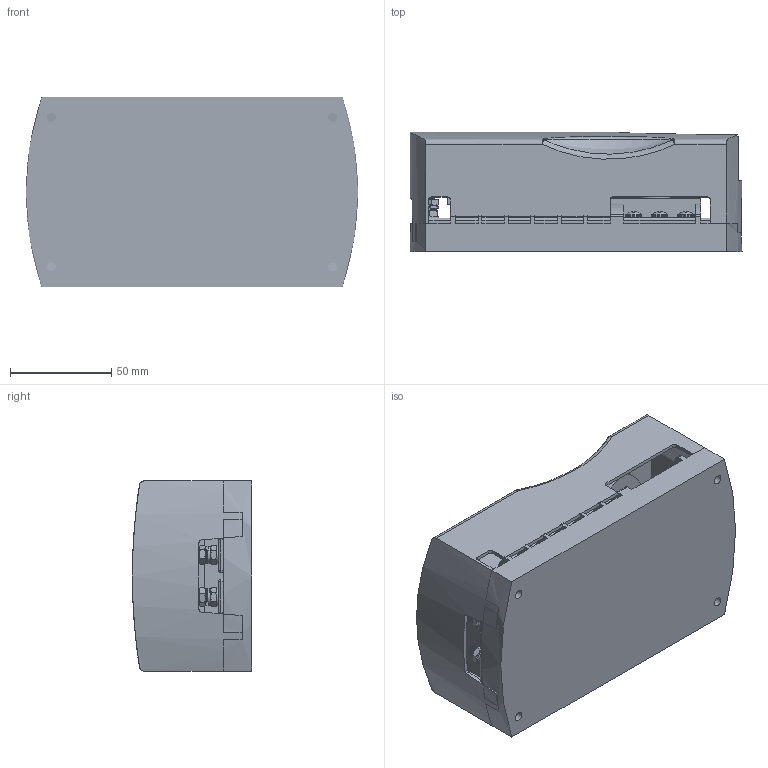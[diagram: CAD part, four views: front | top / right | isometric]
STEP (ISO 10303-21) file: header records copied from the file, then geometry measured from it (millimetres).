
FILE_DESCRIPTION(/* description */ (''),/* implementation_level */ '2;1');
FILE_NAME(/* name */ 'C:\Users\Hani\Desktop\work\BLR-412-G\BLR-412-G.stp',/* time_stamp */ '2021-07-09T14:41:01-07:00',/* author */ ('Hani'),/* organization */ (''),/* preprocessor_version */ 'ST-DEVELOPER v17',/* originating_system */ 'Autodesk Inventor 2019',/* authorisation */ '');
FILE_SCHEMA (('AUTOMOTIVE_DESIGN { 1 0 10303 214 3 1 1 }'));
Products named in the file (17): BLR-406-G; BLR-406-G-Base; M4 PHILLIPS MACHINE SCREW; STUD; LOCK WASHER; WASHER; HEX NUT; STUD_CPY; LOCK WASHER_CPY; WASHER_CPY; HEX NUT_CPY; BLR-406-G-Cover; Push-down-Button; STUD_CPY_MIR1; LOCK WASHER_CPY_MIR1; WASHER_CPY_MIR1; HEX NUT_CPY_MIR1
Assembly tree (36 placements, depth 2):
  BLR-406-G
    BLR-406-G-Base
    M4 PHILLIPS MACHINE SCREW  x18
    STUD
    LOCK WASHER
    WASHER
    HEX NUT  x2
    STUD_CPY
    LOCK WASHER_CPY
    WASHER_CPY
    HEX NUT_CPY  x2
    BLR-406-G-Cover
    Push-down-Button
    STUD_CPY_MIR1
    LOCK WASHER_CPY_MIR1
    WASHER_CPY_MIR1
    HEX NUT_CPY_MIR1  x2
Bounding box: 164.08 x 58.93 x 93.98 mm (x, y, z)
Volume: 388961.2 mm3; surface area: 149092 mm2
Topology: 36 solids, 36 shells, 2668 faces, 7257 edges, 4751 vertices
Faces by surface type: plane 1133, cylinder 796, cone 323, bspline 288, torus 96, sphere 32
Full cylindrical faces by diameter (mm): 3.091 x126, 3.251 x18, 3.769 x48, 3.795 x6, 4 x126, 4.14 x3, 4.496 x4, 4.801 x51, 4.826 x18, 4.953 x3, 5.08 x1, 8 x18, 8.992 x3, 9.068 x4, 9.982 x1, 14.961 x1, 29.972 x1, 30.48 x1, 34.036 x1
Entity records: 70598 total; most frequent: CARTESIAN_POINT 28122, ORIENTED_EDGE 9250, DIRECTION 8056, EDGE_CURVE 4625, VERTEX_POINT 3015, AXIS2_PLACEMENT_3D 2774, LINE 2508, VECTOR 2508
